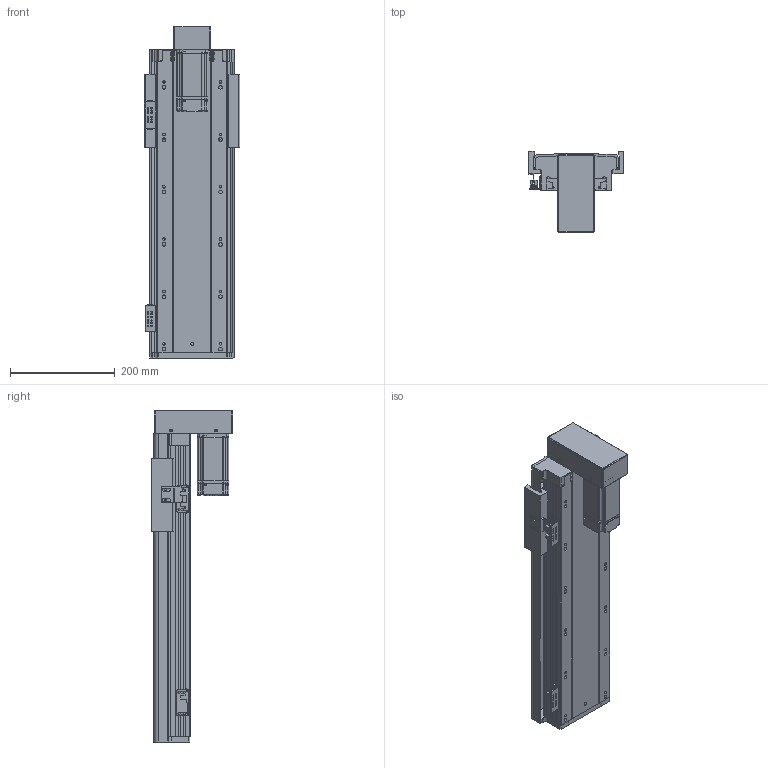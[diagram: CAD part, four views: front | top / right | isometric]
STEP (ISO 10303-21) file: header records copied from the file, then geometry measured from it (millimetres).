
FILE_DESCRIPTION (( 'STEP AP203' ), '1' );
FILE_NAME ('RY140FB-L2010-300-BK.SLDASM_350.step', '2021-02-23T02:28:39', ( '盈信电脑' ), ( '东莞市道滘镇水果街19号' ), 'SwSTEP 2.0', 'SolidWorks 2012', '' );
FILE_SCHEMA (( 'CONFIG_CONTROL_DESIGN' ));
Products named in the file (17): RY140FB-L2010-300-BK.SLDASM_350; RY140-674嫖萇耀輸; RY140直线电机感应器674光电安装座; RY140FB-覜茼え; RY140FB-20佪裝臏賑輸; RY140FB-300蛌殏奻裔啣-BK_350; 覜茼ん674; RY140狟殏萇儂欶; 15; RY140FB-狟殏萇儂假蚾啣; 侂狟400W侜督萇儂; RY140FB-綴裔啣; 滅袉蝶18-24; 滅袉蝶18-10; RY140FB-转折电机端支撑座(7002); RY140FB-300蛌殏倰第菁釱-BK_350
Assembly tree (20 placements, depth 3):
  RY140FB-L2010-300-BK.SLDASM_350
    RY140FB-300蛌殏倰第菁釱-BK_350
    RY140FB-綴裔啣
    滅袉蝶18-24  x2
    滅袉蝶18-10
    RY140FB-转折电机端支撑座(7002)
    侂狟400W侜督萇儂
      15
    RY140狟殏萇儂欶
    RY140FB-狟殏萇儂假蚾啣
    RY140FB-20佪裝臏賑輸
    RY140FB-300蛌殏奻裔啣-BK_350
    RY140-674嫖萇耀輸
      覜茼ん674  x2
      RY140直线电机感应器674光电安装座
    RY140-674嫖萇耀輸
      RY140直线电机感应器674光电安装座
      覜茼ん674
    RY140FB-覜茼え
Bounding box: 183 x 156 x 634 mm (x, y, z)
Volume: 2900041.6 mm3; surface area: 918908.2 mm2
Topology: 17 solids, 17 shells, 1690 faces, 4613 edges, 2943 vertices
Faces by surface type: cylinder 793, plane 723, cone 146, bspline 28
Entity records: 50675 total; most frequent: CARTESIAN_POINT 10129, DIRECTION 8218, ORIENTED_EDGE 7982, EDGE_CURVE 3991, AXIS2_PLACEMENT_3D 2948, VERTEX_POINT 2611, VECTOR 2322, LINE 2322
